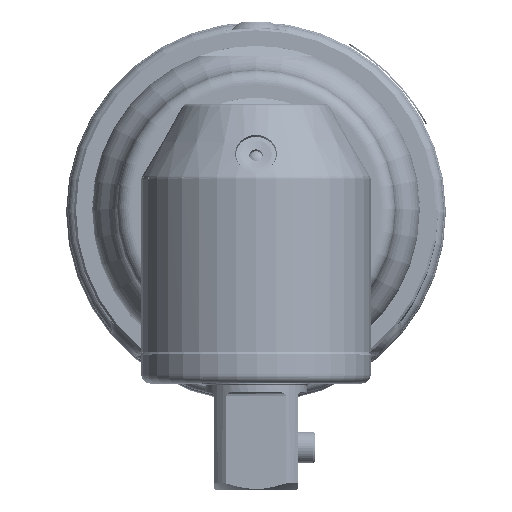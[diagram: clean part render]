
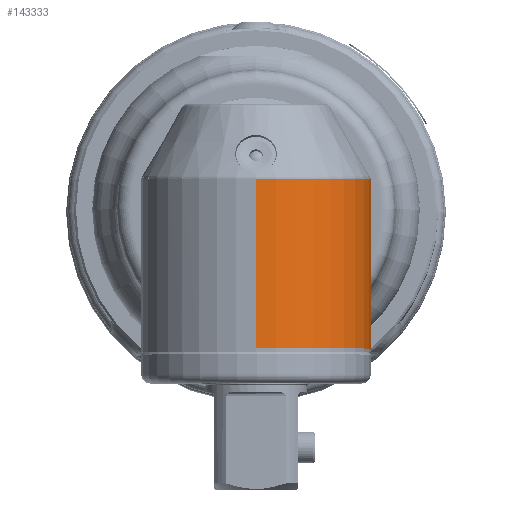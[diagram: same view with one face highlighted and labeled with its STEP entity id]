
A CAD part, top view. The second image highlights one B-rep face of the part: STEP entity #143333.
In plain terms, the highlighted cylindrical face has radius 13.081 mm (diameter 26.162 mm), a partial arc.
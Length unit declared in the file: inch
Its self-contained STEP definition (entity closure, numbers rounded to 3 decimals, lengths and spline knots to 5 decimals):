
#9403 = CARTESIAN_POINT ( 'NONE',  ( 0.50044, 0.02359, 3.0829 ) ) ;
#17237 = LINE ( 'NONE', #290304, #163254 ) ;
#18993 = CIRCLE ( 'NONE', #213495, 0.515 ) ;
#19520 = CARTESIAN_POINT ( 'NONE',  ( 0.3973, -0.3232, 2.87641 ) ) ;
#21052 = B_SPLINE_CURVE_WITH_KNOTS ( 'NONE', 3,
 ( #144444, #274424, #45854, #47473, #249656, #146035, #75377, #244838, #302254, #50707, #246419, #150892, #147670, #251284, #24384, #124644, #19520, #198769, #119774, #323754, #21118, #121392, #221867, #197175, #297386, #72132, #172356, #272776, #22763, #123025, #223478, #9403, #77012, #180560, #282526, #109704, #203665, #131165 ),
 .UNSPECIFIED., .F., .F.,
 ( 4, 2, 2, 2, 2, 2, 2, 2, 2, 2, 2, 2, 2, 2, 2, 2, 2, 2, 4 ),
 ( 0.02716, 0.02886, 0.03056, 0.03226, 0.03395, 0.03565, 0.03735, 0.03905, 0.04074, 0.04414, 0.04583, 0.04753, 0.04838, 0.04923, 0.05008, 0.05093, 0.05177, 0.05262, 0.05432 ),
 .UNSPECIFIED. ) ;
#21118 = CARTESIAN_POINT ( 'NONE',  ( 0.47053, -0.18245, 2.99469 ) ) ;
#22763 = CARTESIAN_POINT ( 'NONE',  ( 0.50003, -0.03184, 3.08122 ) ) ;
#24384 = CARTESIAN_POINT ( 'NONE',  ( 0.36282, -0.36583, 2.83861 ) ) ;
#25326 = DIRECTION ( 'NONE',  ( 0., 0., 1. ) ) ;
#36154 = CARTESIAN_POINT ( 'NONE',  ( 0., -0.53, 2.68951 ) ) ;
#45854 = CARTESIAN_POINT ( 'NONE',  ( 0.0444, -0.52842, 2.69096 ) ) ;
#46674 = CARTESIAN_POINT ( 'NONE',  ( 0., -0.6275, 3.20451 ) ) ;
#47072 = ORIENTED_EDGE ( 'NONE', *, *, #284944, .T. ) ;
#47473 = CARTESIAN_POINT ( 'NONE',  ( 0.08773, -0.52232, 2.69656 ) ) ;
#50707 = CARTESIAN_POINT ( 'NONE',  ( 0.26165, -0.45241, 2.76049 ) ) ;
#53782 = EDGE_CURVE ( 'NONE', #229661, #206057, #166656, .T. ) ;
#66089 = DIRECTION ( 'NONE',  ( 0., 0., 1. ) ) ;
#69220 = VERTEX_POINT ( 'NONE', #36154 ) ;
#72132 = CARTESIAN_POINT ( 'NONE',  ( 0.49606, -0.07359, 3.06603 ) ) ;
#75377 = CARTESIAN_POINT ( 'NONE',  ( 0.17091, -0.49866, 2.71826 ) ) ;
#77012 = CARTESIAN_POINT ( 'NONE',  ( 0.49986, 0.03452, 3.08052 ) ) ;
#77752 = EDGE_CURVE ( 'NONE', #143156, #69220, #220451, .T. ) ;
#96217 = ORIENTED_EDGE ( 'NONE', *, *, #193961, .T. ) ;
#109704 = CARTESIAN_POINT ( 'NONE',  ( 0.49299, 0.09546, 3.05524 ) ) ;
#118426 = DIRECTION ( 'NONE',  ( 0., 1., 0. ) ) ;
#119774 = CARTESIAN_POINT ( 'NONE',  ( 0.44399, -0.2478, 2.94185 ) ) ;
#121392 = CARTESIAN_POINT ( 'NONE',  ( 0.48121, -0.14799, 3.02051 ) ) ;
#123025 = CARTESIAN_POINT ( 'NONE',  ( 0.50085, -0.00984, 3.08459 ) ) ;
#124644 = CARTESIAN_POINT ( 'NONE',  ( 0.38634, -0.33778, 2.86354 ) ) ;
#131165 = CARTESIAN_POINT ( 'NONE',  ( 0.48505, 0.13196, 3.03145 ) ) ;
#141824 = ORIENTED_EDGE ( 'NONE', *, *, #77752, .T. ) ;
#143156 = VERTEX_POINT ( 'NONE', #260179 ) ;
#143333 = ADVANCED_FACE ( 'NONE', ( #265037 ), #240344, .T. ) ;
#144422 = AXIS2_PLACEMENT_3D ( 'NONE', #215774, #291309, #66089 ) ;
#144444 = CARTESIAN_POINT ( 'NONE',  ( 0., -0.53, 2.68951 ) ) ;
#146035 = CARTESIAN_POINT ( 'NONE',  ( 0.15085, -0.5059, 2.71162 ) ) ;
#147670 = CARTESIAN_POINT ( 'NONE',  ( 0.32331, -0.40523, 2.80324 ) ) ;
#150892 = CARTESIAN_POINT ( 'NONE',  ( 0.30895, -0.41763, 2.79204 ) ) ;
#163254 = VECTOR ( 'NONE', #267281, 39.37008 ) ;
#166656 = CIRCLE ( 'NONE', #313732, 0.515 ) ;
#172356 = CARTESIAN_POINT ( 'NONE',  ( 0.49732, -0.06351, 3.07066 ) ) ;
#174993 = CARTESIAN_POINT ( 'NONE',  ( 0., 0.13196, 3.20451 ) ) ;
#180560 = CARTESIAN_POINT ( 'NONE',  ( 0.49814, 0.0558, 3.07378 ) ) ;
#181802 = ORIENTED_EDGE ( 'NONE', *, *, #316762, .F. ) ;
#193961 = EDGE_CURVE ( 'NONE', #69220, #229661, #21052, .T. ) ;
#197175 = CARTESIAN_POINT ( 'NONE',  ( 0.49145, -0.10251, 3.05043 ) ) ;
#197985 = DIRECTION ( 'NONE',  ( 0., 0., 1. ) ) ;
#198769 = CARTESIAN_POINT ( 'NONE',  ( 0.42739, -0.27869, 2.9153 ) ) ;
#203665 = CARTESIAN_POINT ( 'NONE',  ( 0.48943, 0.11396, 3.04371 ) ) ;
#206057 = VERTEX_POINT ( 'NONE', #209539 ) ;
#209539 = CARTESIAN_POINT ( 'NONE',  ( 0., 0.13196, 3.71951 ) ) ;
#213495 = AXIS2_PLACEMENT_3D ( 'NONE', #46674, #252111, #197985 ) ;
#215774 = CARTESIAN_POINT ( 'NONE',  ( 0., -0.6275, 3.20451 ) ) ;
#216493 = ORIENTED_EDGE ( 'NONE', *, *, #53782, .T. ) ;
#220451 = LINE ( 'NONE', #317485, #314794 ) ;
#221867 = CARTESIAN_POINT ( 'NONE',  ( 0.4858, -0.13022, 3.03313 ) ) ;
#223478 = CARTESIAN_POINT ( 'NONE',  ( 0.50093, 0.00153, 3.08495 ) ) ;
#229661 = VERTEX_POINT ( 'NONE', #293756 ) ;
#240344 = CYLINDRICAL_SURFACE ( 'NONE', #144422, 0.515 ) ;
#244838 = CARTESIAN_POINT ( 'NONE',  ( 0.20896, -0.48216, 2.73336 ) ) ;
#246419 = CARTESIAN_POINT ( 'NONE',  ( 0.27817, -0.44119, 2.77069 ) ) ;
#247384 = DIRECTION ( 'NONE',  ( 0., -1., 0. ) ) ;
#249656 = CARTESIAN_POINT ( 'NONE',  ( 0.10912, -0.51777, 2.70074 ) ) ;
#251284 = CARTESIAN_POINT ( 'NONE',  ( 0.35025, -0.37933, 2.82653 ) ) ;
#252111 = DIRECTION ( 'NONE',  ( 0., 1., 0. ) ) ;
#255210 = CARTESIAN_POINT ( 'NONE',  ( 0., -0.6275, 3.71951 ) ) ;
#260179 = CARTESIAN_POINT ( 'NONE',  ( 0., -0.6275, 2.68951 ) ) ;
#265037 = FACE_OUTER_BOUND ( 'NONE', #308985, .T. ) ;
#267281 = DIRECTION ( 'NONE',  ( 0., 1., 0. ) ) ;
#272776 = CARTESIAN_POINT ( 'NONE',  ( 0.49931, -0.04254, 3.07829 ) ) ;
#274424 = CARTESIAN_POINT ( 'NONE',  ( 0.02239, -0.53, 2.68951 ) ) ;
#282526 = CARTESIAN_POINT ( 'NONE',  ( 0.49702, 0.06594, 3.06954 ) ) ;
#284944 = EDGE_CURVE ( 'NONE', #320544, #143156, #18993, .T. ) ;
#290304 = CARTESIAN_POINT ( 'NONE',  ( 0., -0.6275, 3.71951 ) ) ;
#291309 = DIRECTION ( 'NONE',  ( 0., 1., 0. ) ) ;
#293756 = CARTESIAN_POINT ( 'NONE',  ( 0.48505, 0.13196, 3.03145 ) ) ;
#297386 = CARTESIAN_POINT ( 'NONE',  ( 0.49313, -0.09307, 3.05593 ) ) ;
#302254 = CARTESIAN_POINT ( 'NONE',  ( 0.22707, -0.47286, 2.74185 ) ) ;
#308985 = EDGE_LOOP ( 'NONE', ( #47072, #141824, #96217, #216493, #181802 ) ) ;
#313732 = AXIS2_PLACEMENT_3D ( 'NONE', #174993, #247384, #25326 ) ;
#314794 = VECTOR ( 'NONE', #118426, 39.37008 ) ;
#316762 = EDGE_CURVE ( 'NONE', #320544, #206057, #17237, .T. ) ;
#317485 = CARTESIAN_POINT ( 'NONE',  ( 0., -0.6275, 2.68951 ) ) ;
#320544 = VERTEX_POINT ( 'NONE', #255210 ) ;
#323754 = CARTESIAN_POINT ( 'NONE',  ( 0.46445, -0.19909, 2.9815 ) ) ;
